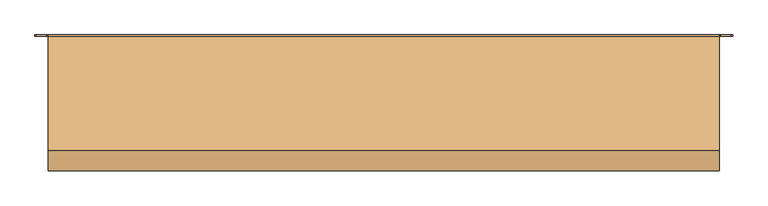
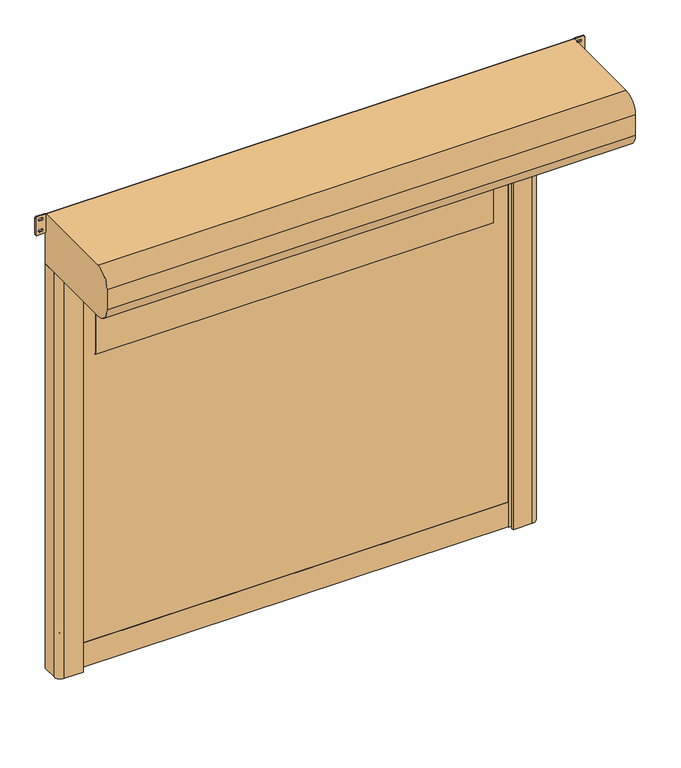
"""IFC4 building model written with IfcOpenShell, lengths in millimetres: door geometry, DO_WPB_Dynamicroll_BMP : Dynamicroll Low Headroom."""

from ifc_helpers import new_model, si_unit, point, frame, frame_2d, origin, origin_with_axes, place, context, project, spatial, polyline, circle_curve, trimmed, segment, composite_curve, outline, extrude, source, transform, mapped, element, save


def door_c90a28ff(model_context):
    return source(origin(), model_context, "Body", "SweptSolid", [
        extrude(outline(composite_curve([segment(trimmed(circle_curve(frame_2d((1000.0, 1064.0)), 6.0), [point((1006.0, 1064.0))], [point((994.0, 1064.0))], False, "CARTESIAN"), True, "CONTINUOUS"), segment(polyline([(994.0, 1064.0), (994.0, 1082.0)]), True, "CONTINUOUS"), segment(trimmed(circle_curve(frame_2d((1000.0, 1082.0)), 6.0), [point((994.0, 1082.0))], [point((1006.0, 1082.0))], False, "CARTESIAN"), True, "CONTINUOUS"), segment(polyline([(1006.0, 1082.0), (1006.0, 1064.0)]), True, "CONTINUOUS")], self_intersect=False)), frame((0.0, -20.0, 0.0), z_axis=(0.0, 1.0, 0.0), x_axis=(0.0, 0.0, 1.0)), (0.0, 0.0, 1.0), 20.0),
        extrude(outline(composite_curve([segment(trimmed(circle_curve(frame_2d((1850.0, 1064.0)), 6.0), [point((1856.0, 1064.0))], [point((1844.0, 1064.0))], False, "CARTESIAN"), True, "CONTINUOUS"), segment(polyline([(1844.0, 1064.0), (1844.0, 1082.0)]), True, "CONTINUOUS"), segment(trimmed(circle_curve(frame_2d((1850.0, 1082.0)), 6.0), [point((1844.0, 1082.0))], [point((1856.0, 1082.0))], False, "CARTESIAN"), True, "CONTINUOUS"), segment(polyline([(1856.0, 1082.0), (1856.0, 1064.0)]), True, "CONTINUOUS")], self_intersect=False)), frame((0.0, -20.0, 0.0), z_axis=(0.0, 1.0, 0.0), x_axis=(0.0, 0.0, 1.0)), (0.0, 0.0, 1.0), 20.0),
        extrude(outline(composite_curve([segment(trimmed(circle_curve(frame_2d((150.0, 1064.0)), 6.0), [point((156.0, 1064.0))], [point((144.0, 1064.0))], False, "CARTESIAN"), True, "CONTINUOUS"), segment(polyline([(144.0, 1064.0), (144.0, 1082.0)]), True, "CONTINUOUS"), segment(trimmed(circle_curve(frame_2d((150.0, 1082.0)), 6.0), [point((144.0, 1082.0))], [point((156.0, 1082.0))], False, "CARTESIAN"), True, "CONTINUOUS"), segment(polyline([(156.0, 1082.0), (156.0, 1064.0)]), True, "CONTINUOUS")], self_intersect=False)), frame((0.0, -20.0, 0.0), z_axis=(0.0, 1.0, 0.0), x_axis=(0.0, 0.0, 1.0)), (0.0, 0.0, 1.0), 20.0),
        extrude(outline(composite_curve([segment(polyline([(1006.0, -1064.0), (1006.0, -1082.0)]), True, "CONTINUOUS"), segment(trimmed(circle_curve(frame_2d((1000.0, -1082.0)), 6.0), [point((1006.0, -1082.0))], [point((994.0, -1082.0))], False, "CARTESIAN"), True, "CONTINUOUS"), segment(polyline([(994.0, -1082.0), (994.0, -1064.0)]), True, "CONTINUOUS"), segment(trimmed(circle_curve(frame_2d((1000.0, -1064.0)), 6.0), [point((994.0, -1064.0))], [point((1006.0, -1064.0))], False, "CARTESIAN"), True, "CONTINUOUS")], self_intersect=False)), frame((0.0, -20.0, 0.0), z_axis=(0.0, 1.0, 0.0), x_axis=(0.0, 0.0, 1.0)), (0.0, 0.0, 1.0), 20.0),
        extrude(outline(composite_curve([segment(polyline([(1856.0, -1064.0), (1856.0, -1082.0)]), True, "CONTINUOUS"), segment(trimmed(circle_curve(frame_2d((1850.0, -1082.0)), 6.0), [point((1856.0, -1082.0))], [point((1844.0, -1082.0))], False, "CARTESIAN"), True, "CONTINUOUS"), segment(polyline([(1844.0, -1082.0), (1844.0, -1064.0)]), True, "CONTINUOUS"), segment(trimmed(circle_curve(frame_2d((1850.0, -1064.0)), 6.0), [point((1844.0, -1064.0))], [point((1856.0, -1064.0))], False, "CARTESIAN"), True, "CONTINUOUS")], self_intersect=False)), frame((0.0, -20.0, 0.0), z_axis=(0.0, 1.0, 0.0), x_axis=(0.0, 0.0, 1.0)), (0.0, 0.0, 1.0), 20.0),
        extrude(outline(composite_curve([segment(polyline([(156.0, -1064.0), (156.0, -1082.0)]), True, "CONTINUOUS"), segment(trimmed(circle_curve(frame_2d((150.0, -1082.0)), 6.0), [point((156.0, -1082.0))], [point((144.0, -1082.0))], False, "CARTESIAN"), True, "CONTINUOUS"), segment(polyline([(144.0, -1082.0), (144.0, -1064.0)]), True, "CONTINUOUS"), segment(trimmed(circle_curve(frame_2d((150.0, -1064.0)), 6.0), [point((144.0, -1064.0))], [point((156.0, -1064.0))], False, "CARTESIAN"), True, "CONTINUOUS")], self_intersect=False)), frame((0.0, -20.0, 0.0), z_axis=(0.0, 1.0, 0.0), x_axis=(0.0, 0.0, 1.0)), (0.0, 0.0, 1.0), 20.0),
        extrude(outline(composite_curve([segment(trimmed(circle_curve(frame_2d((1526.0, 929.0)), 1.0), [point((1525.0, 929.0))], [point((1526.0, 930.0))], False, "CARTESIAN"), True, "CONTINUOUS"), segment(polyline([(1526.0, 930.0), (2024.0, 930.0)]), True, "CONTINUOUS"), segment(trimmed(circle_curve(frame_2d((2024.0, 929.0)), 1.0), [point((2024.0, 930.0))], [point((2025.0, 929.0))], False, "CARTESIAN"), True, "CONTINUOUS"), segment(polyline([(2025.0, 929.0), (2025.0, -929.0)]), True, "CONTINUOUS"), segment(trimmed(circle_curve(frame_2d((2024.0, -929.0)), 1.0), [point((2025.0, -929.0))], [point((2024.0, -930.0))], False, "CARTESIAN"), True, "CONTINUOUS"), segment(polyline([(2024.0, -930.0), (1526.0, -930.0)]), True, "CONTINUOUS"), segment(trimmed(circle_curve(frame_2d((1526.0, -929.0)), 1.0), [point((1526.0, -930.0))], [point((1525.0, -929.0))], False, "CARTESIAN"), True, "CONTINUOUS"), segment(polyline([(1525.0, -929.0), (1525.0, 929.0)]), True, "CONTINUOUS")], self_intersect=False)), frame((0.0, -68.5, 0.0), z_axis=(0.0, 1.0, 0.0), x_axis=(0.0, 0.0, 1.0)), (0.0, 0.0, 1.0), 7.0),
        extrude(outline(polyline([(120.0, -1012.0), (120.0, 1012.0), (2125.0, 1012.0), (2125.0, -1012.0), (120.0, -1012.0)]), holes=[composite_curve([segment(trimmed(circle_curve(frame_2d((1526.0, 929.0)), 1.0), [point((1526.0, 930.0))], [point((1525.0, 929.0))], True, "CARTESIAN"), True, "CONTINUOUS"), segment(polyline([(1525.0, 929.0), (1525.0, -929.0)]), True, "CONTINUOUS"), segment(trimmed(circle_curve(frame_2d((1526.0, -929.0)), 1.0), [point((1525.0, -929.0))], [point((1526.0, -930.0))], True, "CARTESIAN"), True, "CONTINUOUS"), segment(polyline([(1526.0, -930.0), (2024.0, -930.0)]), True, "CONTINUOUS"), segment(trimmed(circle_curve(frame_2d((2024.0, -929.0)), 1.0), [point((2024.0, -930.0))], [point((2025.0, -929.0))], True, "CARTESIAN"), True, "CONTINUOUS"), segment(polyline([(2025.0, -929.0), (2025.0, 929.0)]), True, "CONTINUOUS"), segment(trimmed(circle_curve(frame_2d((2024.0, 929.0)), 1.0), [point((2025.0, 929.0))], [point((2024.0, 930.0))], True, "CARTESIAN"), True, "CONTINUOUS"), segment(polyline([(2024.0, 930.0), (1526.0, 930.0)]), True, "CONTINUOUS")], self_intersect=False)]), frame((0.0, -68.5, 0.0), z_axis=(0.0, 1.0, 0.0), x_axis=(0.0, 0.0, 1.0)), (0.0, 0.0, 1.0), 7.0),
        extrude(outline(polyline([(-1012.0, -59.5), (1012.0, -59.5), (1012.0, -70.5), (-1012.0, -70.5), (-1012.0, -59.5)])), origin_with_axes(), (0.0, 0.0, 1.0), 120.0),
        extrude(outline(composite_curve([segment(trimmed(circle_curve(frame_2d((2163.75, 1350.75)), 5.75), [point((2163.75, 1345.0))], [point((2158.0, 1350.75))], False, "CARTESIAN"), True, "CONTINUOUS"), segment(polyline([(2158.0, 1350.75), (2158.0, 1388.25)]), True, "CONTINUOUS"), segment(trimmed(circle_curve(frame_2d((2163.75, 1388.25)), 5.75), [point((2158.0, 1388.25))], [point((2163.75, 1394.0))], False, "CARTESIAN"), True, "CONTINUOUS"), segment(polyline([(2163.75, 1394.0), (2244.25, 1394.0)]), True, "CONTINUOUS"), segment(trimmed(circle_curve(frame_2d((2244.25, 1388.25)), 5.75), [point((2244.25, 1394.0))], [point((2250.0, 1388.25))], False, "CARTESIAN"), True, "CONTINUOUS"), segment(polyline([(2250.0, 1388.25), (2250.0, 1350.75)]), True, "CONTINUOUS"), segment(trimmed(circle_curve(frame_2d((2244.25, 1350.75)), 5.75), [point((2250.0, 1350.75))], [point((2244.25, 1345.0))], False, "CARTESIAN"), True, "CONTINUOUS"), segment(polyline([(2244.25, 1345.0), (2163.75, 1345.0)]), True, "CONTINUOUS")], self_intersect=False), holes=[composite_curve([segment(trimmed(circle_curve(frame_2d((2231.5, 1373.75)), 5.75), [point((2237.25, 1373.75))], [point((2225.75, 1373.75))], True, "CARTESIAN"), True, "CONTINUOUS"), segment(polyline([(2225.75, 1373.75), (2225.75, 1365.25)]), True, "CONTINUOUS"), segment(trimmed(circle_curve(frame_2d((2231.5, 1365.25)), 5.75), [point((2225.75, 1365.25))], [point((2237.25, 1365.25))], True, "CARTESIAN"), True, "CONTINUOUS"), segment(polyline([(2237.25, 1365.25), (2237.25, 1373.75)]), True, "CONTINUOUS")], self_intersect=False), composite_curve([segment(trimmed(circle_curve(frame_2d((2176.5, 1373.75)), 5.75), [point((2182.25, 1373.75))], [point((2170.75, 1373.75))], True, "CARTESIAN"), True, "CONTINUOUS"), segment(polyline([(2170.75, 1373.75), (2170.75, 1365.25)]), True, "CONTINUOUS"), segment(trimmed(circle_curve(frame_2d((2176.5, 1365.25)), 5.75), [point((2170.75, 1365.25))], [point((2182.25, 1365.25))], True, "CARTESIAN"), True, "CONTINUOUS"), segment(polyline([(2182.25, 1365.25), (2182.25, 1373.75)]), True, "CONTINUOUS")], self_intersect=False)]), frame((0.0, -5.0, 0.0), z_axis=(0.0, 1.0, 0.0), x_axis=(0.0, 0.0, 1.0)), (0.0, 0.0, 1.0), 5.0),
        extrude(outline(composite_curve([segment(trimmed(circle_curve(frame_2d((2163.75, -1168.25)), 5.75), [point((2163.75, -1174.0))], [point((2158.0, -1168.25))], False, "CARTESIAN"), True, "CONTINUOUS"), segment(polyline([(2158.0, -1168.25), (2158.0, -1130.75)]), True, "CONTINUOUS"), segment(trimmed(circle_curve(frame_2d((2163.75, -1130.75)), 5.75), [point((2158.0, -1130.75))], [point((2163.75, -1125.0))], False, "CARTESIAN"), True, "CONTINUOUS"), segment(polyline([(2163.75, -1125.0), (2244.25, -1125.0)]), True, "CONTINUOUS"), segment(trimmed(circle_curve(frame_2d((2244.25, -1130.75)), 5.75), [point((2244.25, -1125.0))], [point((2250.0, -1130.75))], False, "CARTESIAN"), True, "CONTINUOUS"), segment(polyline([(2250.0, -1130.75), (2250.0, -1168.25)]), True, "CONTINUOUS"), segment(trimmed(circle_curve(frame_2d((2244.25, -1168.25)), 5.75), [point((2250.0, -1168.25))], [point((2244.25, -1174.0))], False, "CARTESIAN"), True, "CONTINUOUS"), segment(polyline([(2244.25, -1174.0), (2163.75, -1174.0)]), True, "CONTINUOUS")], self_intersect=False), holes=[composite_curve([segment(trimmed(circle_curve(frame_2d((2231.5, -1145.25)), 5.75), [point((2237.25, -1145.25))], [point((2225.75, -1145.25))], True, "CARTESIAN"), True, "CONTINUOUS"), segment(polyline([(2225.75, -1145.25), (2225.75, -1153.75)]), True, "CONTINUOUS"), segment(trimmed(circle_curve(frame_2d((2231.5, -1153.75)), 5.75), [point((2225.75, -1153.75))], [point((2237.25, -1153.75))], True, "CARTESIAN"), True, "CONTINUOUS"), segment(polyline([(2237.25, -1153.75), (2237.25, -1145.25)]), True, "CONTINUOUS")], self_intersect=False), composite_curve([segment(trimmed(circle_curve(frame_2d((2176.5, -1145.25)), 5.75), [point((2182.25, -1145.25))], [point((2170.75, -1145.25))], True, "CARTESIAN"), True, "CONTINUOUS"), segment(polyline([(2170.75, -1145.25), (2170.75, -1153.75)]), True, "CONTINUOUS"), segment(trimmed(circle_curve(frame_2d((2176.5, -1153.75)), 5.75), [point((2170.75, -1153.75))], [point((2182.25, -1153.75))], True, "CARTESIAN"), True, "CONTINUOUS"), segment(polyline([(2182.25, -1153.75), (2182.25, -1145.25)]), True, "CONTINUOUS")], self_intersect=False)]), frame((0.0, -5.0, 0.0), z_axis=(0.0, 1.0, 0.0), x_axis=(0.0, 0.0, 1.0)), (0.0, 0.0, 1.0), 5.0),
        extrude(outline(composite_curve([segment(trimmed(circle_curve(frame_2d((-5.0, 2005.0)), 5.0), [point((0.0, 2005.0))], [point((-5.0, 2000.0))], False, "CARTESIAN"), True, "CONTINUOUS"), segment(polyline([(-5.0, 2000.0), (-425.0, 2000.0)]), True, "CONTINUOUS"), segment(trimmed(circle_curve(frame_2d((-425.0, 2075.0)), 75.0), [point((-425.0, 2000.0))], [point((-500.0, 2075.0))], False, "CARTESIAN"), True, "CONTINUOUS"), segment(polyline([(-500.0, 2075.0), (-500.0, 2175.0)]), True, "CONTINUOUS"), segment(trimmed(circle_curve(frame_2d((-425.0, 2175.0)), 75.0), [point((-500.0, 2175.0))], [point((-425.0, 2250.0))], False, "CARTESIAN"), True, "CONTINUOUS"), segment(polyline([(-425.0, 2250.0), (-5.0, 2250.0)]), True, "CONTINUOUS"), segment(trimmed(circle_curve(frame_2d((-5.0, 2245.0)), 5.0), [point((-5.0, 2250.0))], [point((0.0, 2245.0))], False, "CARTESIAN"), True, "CONTINUOUS"), segment(polyline([(0.0, 2245.0), (0.0, 2005.0)]), True, "CONTINUOUS")], self_intersect=False)), frame((-1125.0, 0.0, 0.0), z_axis=(1.0, 0.0, 0.0), x_axis=(0.0, 1.0, 0.0)), (0.0, 0.0, 1.0), 2470.0),
        extrude(outline(composite_curve([segment(polyline([(-1125.0, 0.0), (-1015.0, 0.0), (-1015.0, -49.2857143), (-1035.0, -55.0), (-1000.0, -55.0), (-1000.0, -61.5), (-1020.0, -61.5), (-1020.0, -68.5), (-1000.0, -68.5), (-1000.0, -75.0), (-1035.0, -75.0), (-1035.0, -90.0), (-1005.0, -90.0), (-1005.0, -100.0), (-1095.0, -100.0)]), True, "CONTINUOUS"), segment(trimmed(circle_curve(frame_2d((-1095.0, -70.0)), 30.0), [point((-1095.0, -100.0))], [point((-1125.0, -70.0))], False, "CARTESIAN"), True, "CONTINUOUS"), segment(polyline([(-1125.0, -70.0), (-1125.0, 0.0)]), True, "CONTINUOUS")], self_intersect=False)), origin_with_axes(), (0.0, 0.0, 1.0), 2000.0),
        extrude(outline(composite_curve([segment(polyline([(1125.0, 0.0), (1125.0, -70.0)]), True, "CONTINUOUS"), segment(trimmed(circle_curve(frame_2d((1095.0, -70.0)), 30.0), [point((1125.0, -70.0))], [point((1095.0, -100.0))], False, "CARTESIAN"), True, "CONTINUOUS"), segment(polyline([(1095.0, -100.0), (1005.0, -100.0), (1005.0, -90.0), (1035.0, -90.0), (1035.0, -75.0), (1000.0, -75.0), (1000.0, -68.5), (1020.0, -68.5), (1020.0, -61.5), (1000.0, -61.5), (1000.0, -55.0), (1035.0, -55.0), (1015.0, -49.2857143), (1015.0, 0.0), (1125.0, 0.0)]), True, "CONTINUOUS")], self_intersect=False)), origin_with_axes(), (0.0, 0.0, 1.0), 2000.0),
    ])


if __name__ == "__main__":
    model = new_model("IFC4")
    model_context = context("Model", 3, world=origin())
    ifc_project = project(units=[si_unit("LENGTHUNIT", "METRE", prefix="MILLI")], contexts=[model_context])
    site = spatial("IfcSite", under=ifc_project)
    building = spatial("IfcBuilding", under=site)
    placement = place(None, origin())
    door_shape = door_c90a28ff(model_context)
    element("IfcDoor", 1, ObjectType="DO_WPB_Dynamicroll_BMP : Dynamicroll Low Headroom", at=placement, inside=building, context=model_context, shape_type="MappedRepresentation", body=[
        mapped(door_shape, transform((0.0, 0.0, 0.0), x_axis=(1.0, 0.0, 0.0), y_axis=(0.0, 1.0, 0.0), z_axis=(0.0, 0.0, 1.0))),
    ])
    save(model, "model.ifc")
